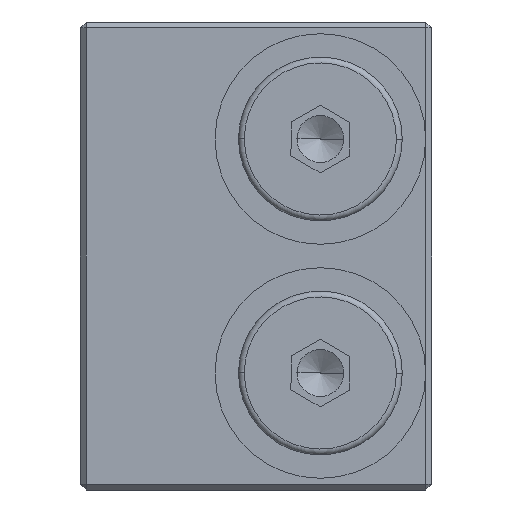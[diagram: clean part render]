
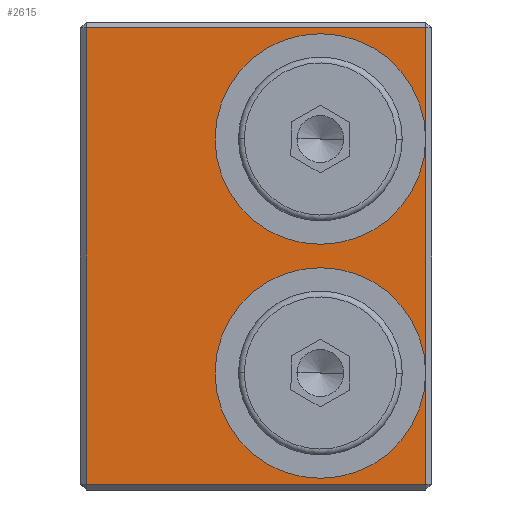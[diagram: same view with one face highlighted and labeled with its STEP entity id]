
A CAD part, left-side view. The second image highlights one B-rep face of the part: STEP entity #2615.
In plain terms, the highlighted planar face has unit normal (-1, 0, 0).
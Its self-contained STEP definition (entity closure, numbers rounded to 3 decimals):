
#85 = ORIENTED_EDGE ( 'NONE', *, *, #2970, .F. ) ;
#110 = VECTOR ( 'NONE', #3200, 1000. ) ;
#113 = DIRECTION ( 'NONE',  ( 0., 0., 1. ) ) ;
#136 = EDGE_CURVE ( 'NONE', #1666, #348, #9571, .T. ) ;
#143 = VERTEX_POINT ( 'NONE', #1347 ) ;
#170 = VECTOR ( 'NONE', #1436, 1000. ) ;
#227 = EDGE_CURVE ( 'NONE', #1753, #4253, #8439, .T. ) ;
#315 = LINE ( 'NONE', #8040, #1764 ) ;
#348 = VERTEX_POINT ( 'NONE', #6335 ) ;
#472 = VECTOR ( 'NONE', #7384, 1000. ) ;
#550 = EDGE_CURVE ( 'NONE', #143, #1830, #8683, .T. ) ;
#552 = AXIS2_PLACEMENT_3D ( 'NONE', #9758, #1231, #5893 ) ;
#591 = EDGE_CURVE ( 'NONE', #1320, #1753, #315, .T. ) ;
#633 = CARTESIAN_POINT ( 'NONE',  ( 0., -15., -19.5 ) ) ;
#692 = CARTESIAN_POINT ( 'NONE',  ( 0., -5.5, 10. ) ) ;
#982 = CARTESIAN_POINT ( 'NONE',  ( 0., -14.5, -19.5 ) ) ;
#1054 = CIRCLE ( 'NONE', #4058, 9. ) ;
#1072 = DIRECTION ( 'NONE',  ( 0., 0., 1. ) ) ;
#1098 = CARTESIAN_POINT ( 'NONE',  ( 0., -14.5, 10. ) ) ;
#1179 = ORIENTED_EDGE ( 'NONE', *, *, #136, .F. ) ;
#1231 = DIRECTION ( 'NONE',  ( -1., 0., 0. ) ) ;
#1320 = VERTEX_POINT ( 'NONE', #9108 ) ;
#1347 = CARTESIAN_POINT ( 'NONE',  ( 0., -5.5, -19. ) ) ;
#1436 = DIRECTION ( 'NONE',  ( 0., -1., 0. ) ) ;
#1447 = CARTESIAN_POINT ( 'NONE',  ( 0., -14.5, 20. ) ) ;
#1666 = VERTEX_POINT ( 'NONE', #3179 ) ;
#1753 = VERTEX_POINT ( 'NONE', #2893 ) ;
#1764 = VECTOR ( 'NONE', #7693, 1000. ) ;
#1830 = VERTEX_POINT ( 'NONE', #4459 ) ;
#1848 = LINE ( 'NONE', #6729, #110 ) ;
#1901 = ORIENTED_EDGE ( 'NONE', *, *, #5049, .T. ) ;
#1988 = EDGE_LOOP ( 'NONE', ( #8999, #3975, #8613, #1179, #85, #1901, #3258, #2384, #2740, #4346, #5494, #8096 ) ) ;
#2169 = CARTESIAN_POINT ( 'NONE',  ( 0., -5.5, 10. ) ) ;
#2180 = DIRECTION ( 'NONE',  ( 0., 0., 1. ) ) ;
#2192 = EDGE_CURVE ( 'NONE', #1830, #4533, #7682, .T. ) ;
#2341 = EDGE_CURVE ( 'NONE', #4167, #1320, #4561, .T. ) ;
#2373 = DIRECTION ( 'NONE',  ( -1., 0., 0. ) ) ;
#2384 = ORIENTED_EDGE ( 'NONE', *, *, #591, .T. ) ;
#2615 = ADVANCED_FACE ( 'NONE', ( #4254 ), #7626, .T. ) ;
#2639 = CARTESIAN_POINT ( 'NONE',  ( 0., 15., -20. ) ) ;
#2664 = CARTESIAN_POINT ( 'NONE',  ( 0., 15., 19.5 ) ) ;
#2740 = ORIENTED_EDGE ( 'NONE', *, *, #227, .T. ) ;
#2893 = CARTESIAN_POINT ( 'NONE',  ( 0., 14.5, -19.5 ) ) ;
#2921 = DIRECTION ( 'NONE',  ( 0., 0., 1. ) ) ;
#2970 = EDGE_CURVE ( 'NONE', #9021, #1666, #1054, .T. ) ;
#3074 = CARTESIAN_POINT ( 'NONE',  ( 0., -5.5, -10. ) ) ;
#3179 = CARTESIAN_POINT ( 'NONE',  ( 0., -5.5, 19. ) ) ;
#3200 = DIRECTION ( 'NONE',  ( 0., 0., 1. ) ) ;
#3258 = ORIENTED_EDGE ( 'NONE', *, *, #2341, .T. ) ;
#3311 = CARTESIAN_POINT ( 'NONE',  ( 0., -5.5, -10. ) ) ;
#3975 = ORIENTED_EDGE ( 'NONE', *, *, #4783, .T. ) ;
#4058 = AXIS2_PLACEMENT_3D ( 'NONE', #2169, #6814, #5053 ) ;
#4155 = LINE ( 'NONE', #1447, #6415 ) ;
#4167 = VERTEX_POINT ( 'NONE', #4811 ) ;
#4253 = VERTEX_POINT ( 'NONE', #982 ) ;
#4254 = FACE_OUTER_BOUND ( 'NONE', #1988, .T. ) ;
#4346 = ORIENTED_EDGE ( 'NONE', *, *, #5155, .T. ) ;
#4459 = CARTESIAN_POINT ( 'NONE',  ( 0., -14.5, -10. ) ) ;
#4533 = VERTEX_POINT ( 'NONE', #5036 ) ;
#4561 = LINE ( 'NONE', #2664, #8009 ) ;
#4783 = EDGE_CURVE ( 'NONE', #1830, #9021, #1848, .T. ) ;
#4804 = AXIS2_PLACEMENT_3D ( 'NONE', #3074, #10071, #8529 ) ;
#4811 = CARTESIAN_POINT ( 'NONE',  ( 0., -14.5, 19.5 ) ) ;
#4988 = EDGE_CURVE ( 'NONE', #348, #9021, #9628, .T. ) ;
#5036 = CARTESIAN_POINT ( 'NONE',  ( 0., -5.5, -1. ) ) ;
#5049 = EDGE_CURVE ( 'NONE', #9021, #4167, #4155, .T. ) ;
#5053 = DIRECTION ( 'NONE',  ( 0., 0., 1. ) ) ;
#5155 = EDGE_CURVE ( 'NONE', #4253, #1830, #7989, .T. ) ;
#5209 = CARTESIAN_POINT ( 'NONE',  ( 0., -14.5, 20. ) ) ;
#5494 = ORIENTED_EDGE ( 'NONE', *, *, #550, .F. ) ;
#5724 = AXIS2_PLACEMENT_3D ( 'NONE', #692, #7621, #2180 ) ;
#5893 = DIRECTION ( 'NONE',  ( 0., 0., 1. ) ) ;
#6335 = CARTESIAN_POINT ( 'NONE',  ( 0., -5.5, 1. ) ) ;
#6415 = VECTOR ( 'NONE', #2921, 1000. ) ;
#6448 = DIRECTION ( 'NONE',  ( 0., 1., 0. ) ) ;
#6495 = AXIS2_PLACEMENT_3D ( 'NONE', #2639, #8048, #1072 ) ;
#6729 = CARTESIAN_POINT ( 'NONE',  ( 0., -14.5, 20. ) ) ;
#6814 = DIRECTION ( 'NONE',  ( -1., 0., 0. ) ) ;
#7033 = DIRECTION ( 'NONE',  ( 0., 0., 1. ) ) ;
#7057 = EDGE_CURVE ( 'NONE', #4533, #143, #9743, .T. ) ;
#7384 = DIRECTION ( 'NONE',  ( 0., 0., 1. ) ) ;
#7408 = AXIS2_PLACEMENT_3D ( 'NONE', #7803, #2373, #7033 ) ;
#7499 = AXIS2_PLACEMENT_3D ( 'NONE', #3311, #7921, #113 ) ;
#7621 = DIRECTION ( 'NONE',  ( -1., 0., 0. ) ) ;
#7626 = PLANE ( 'NONE',  #6495 ) ;
#7682 = CIRCLE ( 'NONE', #7499, 9. ) ;
#7693 = DIRECTION ( 'NONE',  ( 0., 0., -1. ) ) ;
#7803 = CARTESIAN_POINT ( 'NONE',  ( 0., -5.5, -10. ) ) ;
#7921 = DIRECTION ( 'NONE',  ( -1., 0., 0. ) ) ;
#7989 = LINE ( 'NONE', #5209, #472 ) ;
#8009 = VECTOR ( 'NONE', #6448, 1000. ) ;
#8040 = CARTESIAN_POINT ( 'NONE',  ( 0., 14.5, -20. ) ) ;
#8048 = DIRECTION ( 'NONE',  ( -1., 0., 0. ) ) ;
#8096 = ORIENTED_EDGE ( 'NONE', *, *, #7057, .F. ) ;
#8439 = LINE ( 'NONE', #633, #170 ) ;
#8529 = DIRECTION ( 'NONE',  ( 0., 0., 1. ) ) ;
#8613 = ORIENTED_EDGE ( 'NONE', *, *, #4988, .F. ) ;
#8683 = CIRCLE ( 'NONE', #4804, 9. ) ;
#8999 = ORIENTED_EDGE ( 'NONE', *, *, #2192, .F. ) ;
#9021 = VERTEX_POINT ( 'NONE', #1098 ) ;
#9108 = CARTESIAN_POINT ( 'NONE',  ( 0., 14.5, 19.5 ) ) ;
#9571 = CIRCLE ( 'NONE', #552, 9. ) ;
#9628 = CIRCLE ( 'NONE', #5724, 9. ) ;
#9743 = CIRCLE ( 'NONE', #7408, 9. ) ;
#9758 = CARTESIAN_POINT ( 'NONE',  ( 0., -5.5, 10. ) ) ;
#10071 = DIRECTION ( 'NONE',  ( -1., 0., 0. ) ) ;
